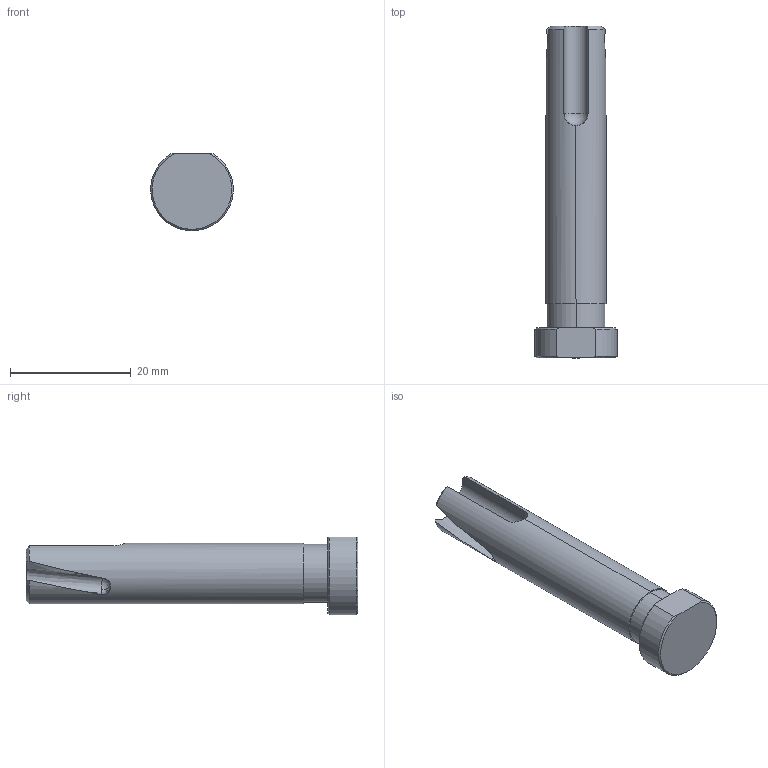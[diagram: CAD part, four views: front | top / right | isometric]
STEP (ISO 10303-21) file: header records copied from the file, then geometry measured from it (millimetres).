
FILE_DESCRIPTION (( 'STEP AP214' ), '1' );
FILE_NAME ('EGCP (P10.50.2-120).STEP', '2019-11-11T13:13:59', ( '' ), ( '' ), 'SwSTEP 2.0', 'SolidWorks 2014', '' );
FILE_SCHEMA (( 'AUTOMOTIVE_DESIGN' ));
Length unit declared in the file: millimetre
Products named in the file (1): EGCP (P10.50.2-120)
Bounding box: 13.66 x 55 x 12.85 mm (x, y, z)
Volume: 4119.4 mm3; surface area: 2294.9 mm2
Topology: 1 solids, 1 shells, 33 faces, 91 edges, 61 vertices
Faces by surface type: plane 9, cylinder 8, bspline 8, cone 7, sphere 1
Entity records: 2130 total; most frequent: CARTESIAN_POINT 1350, ORIENTED_EDGE 178, DIRECTION 127, EDGE_CURVE 89, VERTEX_POINT 60, AXIS2_PLACEMENT_3D 54, B_SPLINE_CURVE_WITH_KNOTS 38, EDGE_LOOP 35
